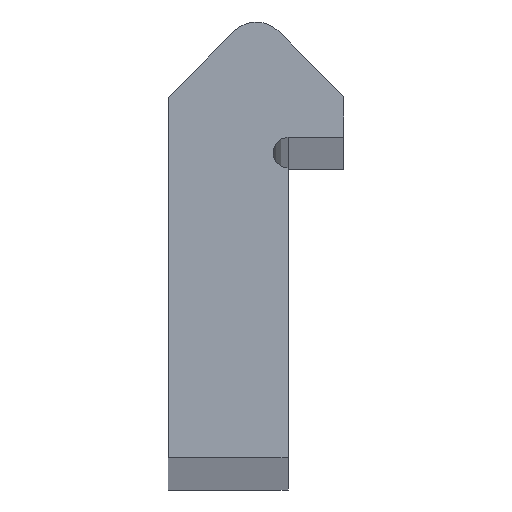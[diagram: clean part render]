
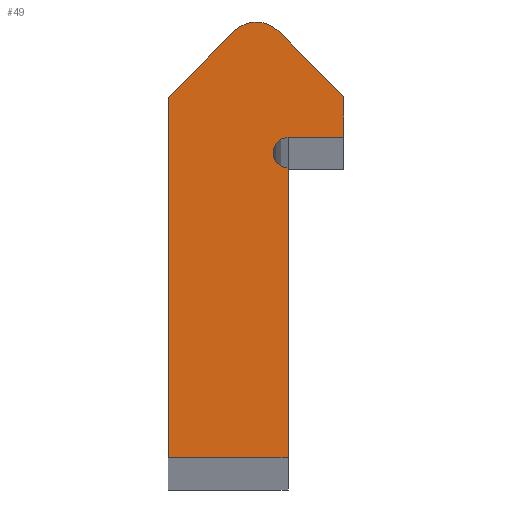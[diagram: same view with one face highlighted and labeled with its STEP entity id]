
A CAD part, top view. The second image highlights one B-rep face of the part: STEP entity #49.
In plain terms, the highlighted planar face has unit normal (0, 0, 1).
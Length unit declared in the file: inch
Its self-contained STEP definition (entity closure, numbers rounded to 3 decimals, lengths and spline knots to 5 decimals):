
#49 = ADVANCED_FACE( '', ( #95 ), #96, .T. );
#95 = FACE_OUTER_BOUND( '', #135, .T. );
#96 = PLANE( '', #136 );
#135 = EDGE_LOOP( '', ( #209, #210, #211, #212, #213, #214, #215, #216, #217 ) );
#136 = AXIS2_PLACEMENT_3D( '', #218, #219, #220 );
#209 = ORIENTED_EDGE( '', *, *, #277, .T. );
#210 = ORIENTED_EDGE( '', *, *, #274, .T. );
#211 = ORIENTED_EDGE( '', *, *, #264, .T. );
#212 = ORIENTED_EDGE( '', *, *, #246, .T. );
#213 = ORIENTED_EDGE( '', *, *, #267, .F. );
#214 = ORIENTED_EDGE( '', *, *, #278, .T. );
#215 = ORIENTED_EDGE( '', *, *, #270, .T. );
#216 = ORIENTED_EDGE( '', *, *, #279, .T. );
#217 = ORIENTED_EDGE( '', *, *, #251, .T. );
#218 = CARTESIAN_POINT( '', ( 0.234, 0.595, 0. ) );
#219 = DIRECTION( '', ( 0., 0., 1. ) );
#220 = DIRECTION( '', ( 1., 0., 0. ) );
#246 = EDGE_CURVE( '', #284, #285, #286, .T. );
#251 = EDGE_CURVE( '', #293, #294, #295, .T. );
#264 = EDGE_CURVE( '', #315, #284, #316, .T. );
#267 = EDGE_CURVE( '', #319, #285, #320, .T. );
#270 = EDGE_CURVE( '', #323, #324, #325, .T. );
#274 = EDGE_CURVE( '', #329, #315, #330, .T. );
#277 = EDGE_CURVE( '', #294, #329, #333, .T. );
#278 = EDGE_CURVE( '', #319, #323, #334, .T. );
#279 = EDGE_CURVE( '', #324, #293, #335, .T. );
#284 = VERTEX_POINT( '', #340 );
#285 = VERTEX_POINT( '', #341 );
#286 = LINE( '', #342, #343 );
#293 = VERTEX_POINT( '', #353 );
#294 = VERTEX_POINT( '', #354 );
#295 = CIRCLE( '', #355, 0.06 );
#315 = VERTEX_POINT( '', #383 );
#316 = LINE( '', #384, #385 );
#319 = VERTEX_POINT( '', #389 );
#320 = CIRCLE( '', #390, 0.03 );
#323 = VERTEX_POINT( '', #394 );
#324 = VERTEX_POINT( '', #395 );
#325 = LINE( '', #396, #397 );
#329 = VERTEX_POINT( '', #403 );
#330 = LINE( '', #404, #405 );
#333 = LINE( '', #409, #410 );
#334 = LINE( '', #411, #412 );
#335 = LINE( '', #413, #414 );
#340 = CARTESIAN_POINT( '', ( 0.234, 0., 0. ) );
#341 = CARTESIAN_POINT( '', ( 0.234, 0.565, 0. ) );
#342 = CARTESIAN_POINT( '', ( 0.234, 0., 0. ) );
#343 = VECTOR( '', #418, 39.37008 );
#353 = CARTESIAN_POINT( '', ( 0.21443, 0.83257, 0. ) );
#354 = CARTESIAN_POINT( '', ( 0.12957, 0.83257, 0. ) );
#355 = AXIS2_PLACEMENT_3D( '', #422, #423, #424 );
#383 = CARTESIAN_POINT( '', ( 0., 0., 0. ) );
#384 = CARTESIAN_POINT( '', ( 0., 0., 0. ) );
#385 = VECTOR( '', #439, 39.37008 );
#389 = CARTESIAN_POINT( '', ( 0.234, 0.625, 0. ) );
#390 = AXIS2_PLACEMENT_3D( '', #441, #442, #443 );
#394 = CARTESIAN_POINT( '', ( 0.343, 0.625, 0. ) );
#395 = CARTESIAN_POINT( '', ( 0.343, 0.704, 0. ) );
#396 = CARTESIAN_POINT( '', ( 0.343, 0.625, 0. ) );
#397 = VECTOR( '', #445, 39.37008 );
#403 = CARTESIAN_POINT( '', ( 0., 0.703, 0. ) );
#404 = CARTESIAN_POINT( '', ( 0., 0.703, 0. ) );
#405 = VECTOR( '', #448, 39.37008 );
#409 = CARTESIAN_POINT( '', ( 0.12957, 0.83257, 0. ) );
#410 = VECTOR( '', #450, 39.37008 );
#411 = CARTESIAN_POINT( '', ( 0.234, 0.625, 0. ) );
#412 = VECTOR( '', #451, 39.37008 );
#413 = CARTESIAN_POINT( '', ( 0.343, 0.704, 0. ) );
#414 = VECTOR( '', #452, 39.37008 );
#418 = DIRECTION( '', ( 0., 1., 0. ) );
#422 = CARTESIAN_POINT( '', ( 0.172, 0.79015, 0. ) );
#423 = DIRECTION( '', ( 0., 0., 1. ) );
#424 = DIRECTION( '', ( 1., 0., 0. ) );
#439 = DIRECTION( '', ( 1., 0., 0. ) );
#441 = CARTESIAN_POINT( '', ( 0.234, 0.595, 0. ) );
#442 = DIRECTION( '', ( 0., 0., 1. ) );
#443 = DIRECTION( '', ( 1., 0., 0. ) );
#445 = DIRECTION( '', ( 0., 1., 0. ) );
#448 = DIRECTION( '', ( 0., -1., 0. ) );
#450 = DIRECTION( '', ( -0.707, -0.707, 0. ) );
#451 = DIRECTION( '', ( 1., 0., 0. ) );
#452 = DIRECTION( '', ( -0.707, 0.707, 0. ) );
